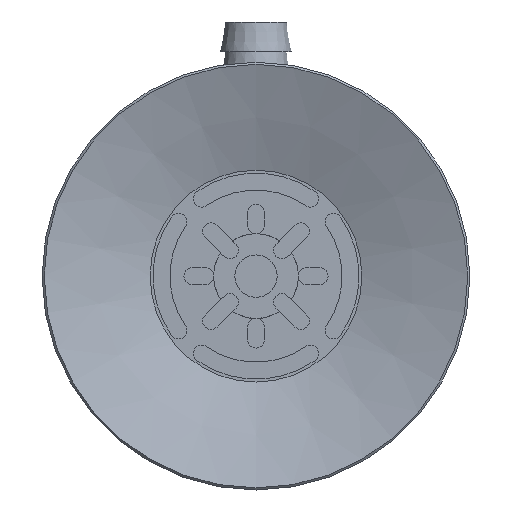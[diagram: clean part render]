
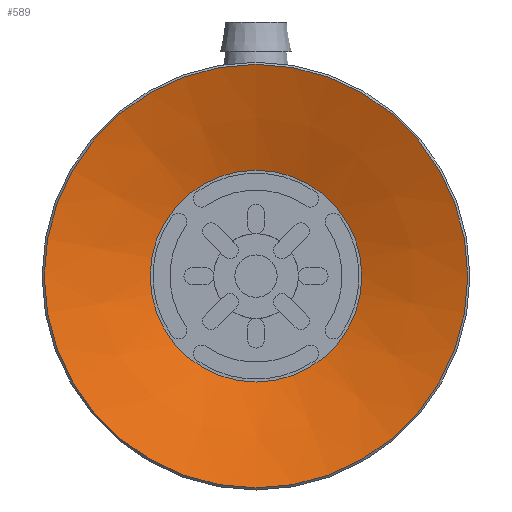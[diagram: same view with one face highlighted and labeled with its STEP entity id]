
A CAD part, front view. The second image highlights one B-rep face of the part: STEP entity #589.
In plain terms, the highlighted conical face has half-angle 70.201 degrees and reference radius 7.5 mm.
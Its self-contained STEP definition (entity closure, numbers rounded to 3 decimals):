
#589=ADVANCED_FACE('',(#966,#967),#968,.F.);
#966=FACE_BOUND('',#1420,.T.);
#967=FACE_OUTER_BOUND('',#1421,.T.);
#968=CONICAL_SURFACE('',#1422,7.5,1.225);
#1420=EDGE_LOOP('',(#2466));
#1421=EDGE_LOOP('',(#2467));
#1422=AXIS2_PLACEMENT_3D('',#2468,#2469,#2470);
#2466=ORIENTED_EDGE('',*,*,#3234,.F.);
#2467=ORIENTED_EDGE('',*,*,#3235,.T.);
#2468=CARTESIAN_POINT('',(0.0,0.0,2.7));
#2469=DIRECTION('',(0.0,0.,-1.0));
#2470=DIRECTION('',(0.0,1.0,0.));
#3234=EDGE_CURVE('',#3852,#3852,#3853,.T.);
#3235=EDGE_CURVE('',#3854,#3854,#3855,.T.);
#3852=VERTEX_POINT('',#5048);
#3853=CIRCLE('',#5049,7.5);
#3854=VERTEX_POINT('',#5050);
#3855=CIRCLE('',#5051,15.0);
#5048=CARTESIAN_POINT('',(0.0,7.5,2.7));
#5049=AXIS2_PLACEMENT_3D('',#5758,#5759,#5760);
#5050=CARTESIAN_POINT('',(0.0,15.0,0.));
#5051=AXIS2_PLACEMENT_3D('',#5761,#5762,#5763);
#5758=CARTESIAN_POINT('',(0.0,0.0,2.7));
#5759=DIRECTION('',(0.0,0.,-1.0));
#5760=DIRECTION('',(0.0,1.0,0.));
#5761=CARTESIAN_POINT('',(0.0,0.0,0.0));
#5762=DIRECTION('',(0.0,0.,-1.0));
#5763=DIRECTION('',(0.0,1.0,0.));
